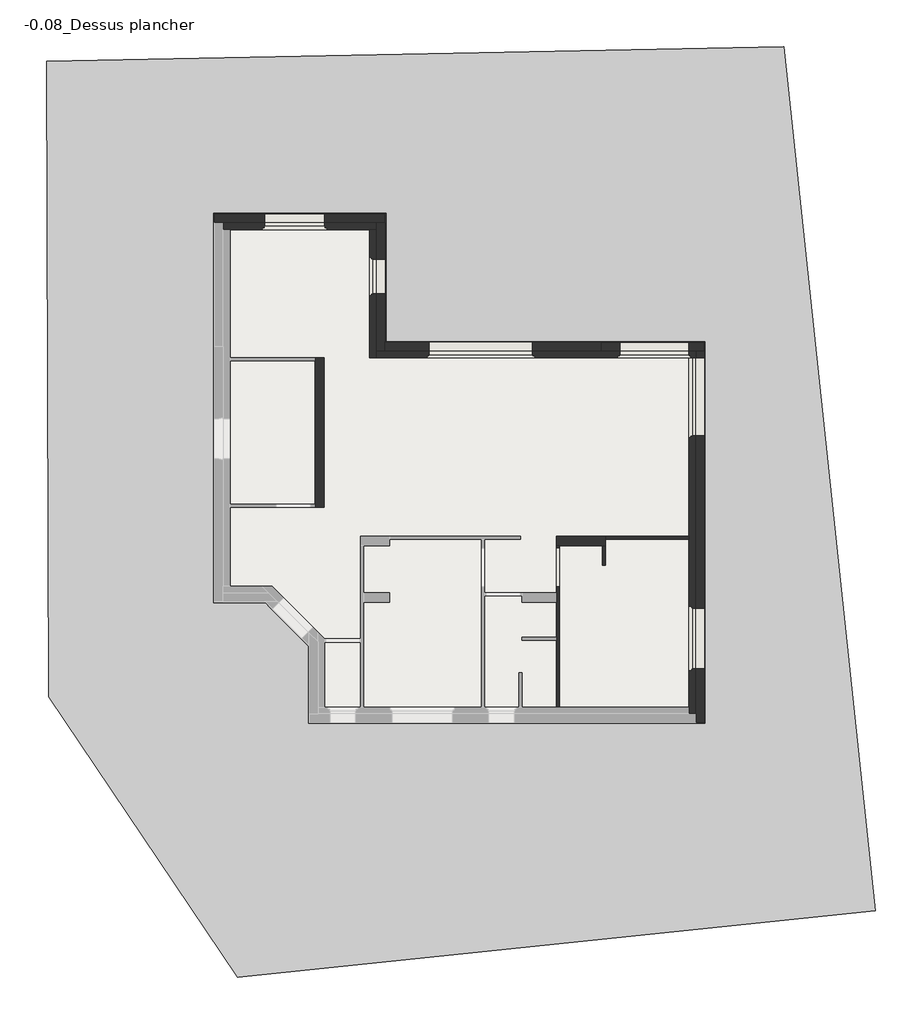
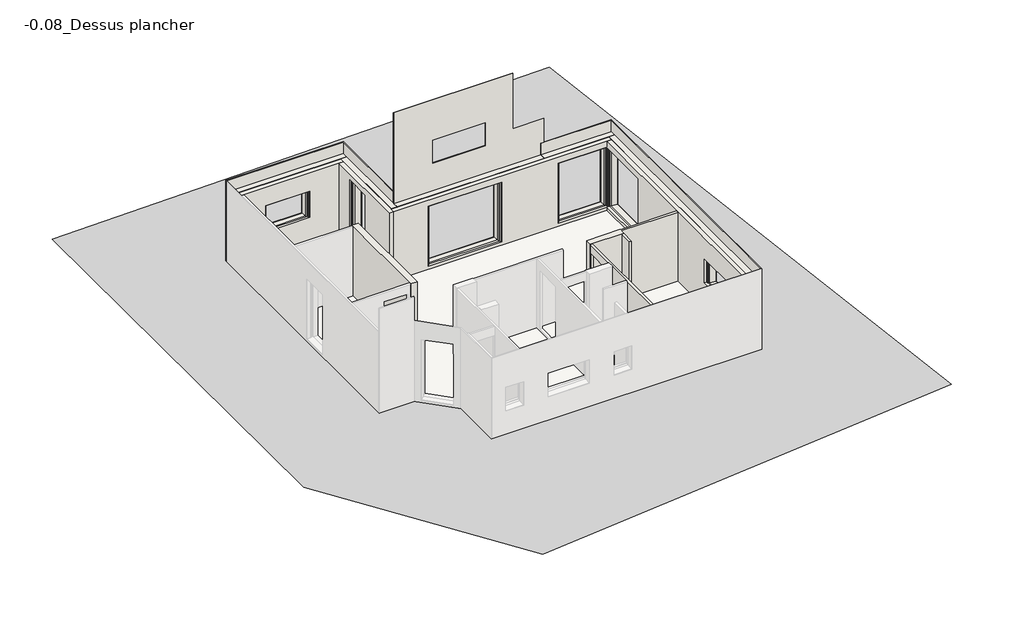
# One storey, part 2 of 2: 19 walls, 1 proxy, 1 slab.
"""IFC4 building model written with IfcOpenShell, lengths in millimetres."""

from ifc_helpers import new_model, si_unit, frame, origin, place, context, project, spatial, polyline, outline, extrude, faceted_brep, triangles, element, save

model = new_model("IFC4")

# Units and contexts
model_context = context("Model", 3, world=origin())
ifc_project = project(units=[si_unit("LENGTHUNIT", "METRE", prefix="MILLI")], contexts=[model_context])

# Site, building, storey
site = spatial("IfcSite", under=ifc_project)
building = spatial("IfcBuilding", under=site)
storey = spatial("IfcBuildingStorey", under=building, Name="-0.08_Dessus plancher", Elevation=-80.0)

# Proxy
placement = place(None, origin())
element("IfcBuildingElementProxy", 1, Name="Building Element Proxy", at=placement, inside=storey, context=model_context, shape_type="Tessellation", body=[
    triangles([(-21773.4616699, 13740.6147766, -80.0000042), (-21725.3041443, -995.5213566, -80.0000042), (-17342.9902405, -7496.7575226, -80.0000042), (-2558.6970177, -5955.7236786, -80.0000042), (-4677.6185532, 14077.7151306, -80.0000042), (-13901.7723816, 10209.9233093, -80.0000042), (-13901.7723816, 7239.9231995, -80.0000042), (-12411.095929, 7239.9231995, -80.0000042), (-6501.7723251, 7239.9231995, -80.0000042), (-6501.7723251, -1610.0768681, -80.0000042), (-15701.7729767, -1610.0768681, -80.0000042), (-15701.7729767, 189.9231638, -80.0000042), (-16701.772403, 1189.9231533, -80.0000042), (-17901.7724121, 1189.9231533, -80.0000042), (-17901.7724121, 2385.1725803, -80.0000042), (-17901.7724121, 10209.9233093, -80.0000042)], [[2, 14, 15], [14, 2, 11], [3, 11, 2], [11, 3, 10], [13, 14, 12], [1, 16, 6], [1, 2, 16], [2, 15, 16], [12, 14, 11], [3, 4, 10], [9, 10, 4], [7, 8, 6], [9, 5, 6], [5, 9, 4], [8, 9, 6], [6, 5, 1]], closed=False),
])

# Slab
element("IfcSlab", 2, ObjectType="Plancher 4+12+5", at=placement, inside=storey, context=model_context, shape_type="SweptSolid", body=[
    extrude(outline(polyline([(-6521.7726031, 7219.9231713), (-6521.7726031, -1590.0768287), (-15681.7726031, -1590.0768287), (-15681.7726031, 198.2074425), (-16693.4883319, 1209.9231713), (-17881.7726031, 1209.9231713), (-17881.7726031, 10189.9231713), (-13921.7726031, 10189.9231713), (-13921.7726031, 7219.9231713), (-6521.7726031, 7219.9231713)])), frame((0.0, 0.0, -290.0), z_axis=(0.0, 0.0, 1.0), x_axis=(1.0, 0.0, 0.0)), (0.0, 0.0, 1.0), 210.0),
])

# Walls
element("IfcWall", 3, ObjectType="Mur refend 22", at=placement, inside=storey, context=model_context, shape_type="SweptSolid", body=[
    extrude(outline(polyline([(-8811.7726031, 2509.9231713), (-9951.7726031, 2509.9231713), (-9951.7726031, 2729.9231713), (-8811.7726031, 2729.9231713), (-8811.7726031, 2509.9231713)])), frame((0.0, 0.0, -80.0), z_axis=(0.0, 0.0, 1.0), x_axis=(1.0, 0.0, 0.0)), (0.0, 0.0, 1.0), 2490.0),
])
element("IfcWall", 4, ObjectType="Mur refend 22", at=placement, inside=storey, context=model_context, shape_type="SweptSolid", body=[
    extrude(outline(polyline([(-15331.7726031, 6859.9231713), (-15331.7726031, 3399.9231713), (-15551.7726031, 3399.9231713), (-15551.7726031, 6859.9231713), (-15331.7726031, 6859.9231713)])), frame((0.0, 0.0, -80.0), z_axis=(0.0, 0.0, 1.0), x_axis=(1.0, 0.0, 0.0)), (0.0, 0.0, 1.0), 2490.0),
])
element("IfcWall", 5, ObjectType="Doublage 16", at=placement, inside=storey, context=model_context, shape_type="Brep", body=[
    faceted_brep([(-17681.7726031, 9829.9231713, -80.0), (-17521.7726031, 9829.9231713, -80.0), (-14281.7726031, 9829.9231713, -80.0), (-14121.7726031, 9829.9231713, -80.0), (-14121.7726031, 9829.9231713, 2400.0), (-14281.7726031, 9829.9231713, 2400.0), (-17521.7726031, 9829.9231713, 2400.0), (-17681.7726031, 9829.9231713, 2400.0), (-15271.7726031, 9829.9231713, 800.0), (-16771.7726031, 9829.9231713, 800.0), (-16771.7726031, 9829.9231713, 1750.0), (-15271.7726031, 9829.9231713, 1750.0), (-17681.7726031, 9989.9231713, -80.0), (-17681.7726031, 9989.9231713, 2400.0), (-14121.7726031, 9989.9231713, 2400.0), (-14121.7726031, 9989.9231713, -80.0), (-16721.7726031, 9989.9231713, 1700.0), (-16721.7726031, 9989.9231713, 776.5916612), (-15321.7726031, 9989.9231713, 776.5916612), (-15321.7726031, 9989.9231713, 1700.0), (-16721.7726031, 9909.9231713, 800.0), (-16721.7726031, 9909.9231713, 785.0), (-16721.7726031, 9929.9231713, 1700.0), (-16721.7726031, 9929.9231713, 800.0), (-15321.7726031, 9909.9231713, 785.0), (-15321.7726031, 9909.9231713, 800.0), (-15321.7726031, 9929.9231713, 800.0), (-15321.7726031, 9929.9231713, 1700.0), (-16731.7726031, 9929.9231713, 800.0), (-16731.7726031, 9879.9231713, 800.0), (-16771.7726031, 9879.9231713, 800.0), (-15271.7726031, 9879.9231713, 800.0), (-15311.7726031, 9879.9231713, 800.0), (-15311.7726031, 9929.9231713, 800.0), (-16771.7726031, 9879.9231713, 1750.0), (-16731.7726031, 9879.9231713, 1710.0), (-15311.7726031, 9879.9231713, 1710.0), (-15271.7726031, 9879.9231713, 1750.0), (-16731.7726031, 9929.9231713, 1710.0), (-15311.7726031, 9929.9231713, 1710.0)], [[[0, 1, 2, 3, 4, 5, 6, 7], [8, 9, 10, 11]], [[12, 13, 14, 15], [16, 17, 18, 19]], [[3, 2, 1, 0, 12, 15]], [[7, 6, 5, 4, 14, 13]], [[20, 21, 17, 16, 22, 23]], [[24, 25, 26, 27, 19, 18]], [[21, 24, 18, 17]], [[21, 20, 25, 24]], [[16, 19, 27, 22]], [[25, 20, 23, 28, 29, 30, 9, 8, 31, 32, 33, 26]], [[9, 30, 34, 10]], [[30, 29, 35, 36, 32, 31, 37, 34]], [[29, 28, 38, 35]], [[28, 23, 22, 27, 26, 33, 39, 38]], [[10, 34, 37, 11]], [[36, 35, 38, 39]], [[37, 31, 8, 11]], [[32, 36, 39, 33]], [[0, 7, 13, 12]], [[4, 3, 15, 14]]]),
])
element("IfcWall", 6, ObjectType="Doublage 16", at=placement, inside=storey, context=model_context, shape_type="Brep", body=[
    faceted_brep([(-14281.7726031, 9829.9231713, -80.0), (-14281.7726031, 6859.9231713, -80.0), (-14281.7726031, 6859.9231713, 2400.0), (-14281.7726031, 9829.9231713, 2400.0), (-14281.7726031, 8299.9231713, 35.0), (-14281.7726031, 9199.9231713, 35.0), (-14281.7726031, 9199.9231713, 2185.0), (-14281.7726031, 8299.9231713, 2185.0), (-14121.7726031, 9829.9231713, -80.0), (-14121.7726031, 9829.9231713, 2400.0), (-14121.7726031, 7019.9231713, 2400.0), (-14121.7726031, 6859.9231713, 2400.0), (-14121.7726031, 6859.9231713, -80.0), (-14121.7726031, 7019.9231713, -80.0), (-14121.7726031, 9149.9231713, 2135.0), (-14121.7726031, 9149.9231713, 26.5916612), (-14121.7726031, 8349.9231713, 26.5916612), (-14121.7726031, 8349.9231713, 2135.0), (-14201.7726031, 9149.9231713, 35.0), (-14181.7726031, 9149.9231713, 2135.0), (-14181.7726031, 9149.9231713, 35.0), (-14201.7726031, 8349.9231713, 35.0), (-14181.7726031, 8349.9231713, 35.0), (-14181.7726031, 8349.9231713, 2135.0), (-14181.7726031, 9159.9231713, 35.0), (-14231.7726031, 9159.9231713, 35.0), (-14231.7726031, 9199.9231713, 35.0), (-14231.7726031, 8299.9231713, 35.0), (-14231.7726031, 8339.9231713, 35.0), (-14181.7726031, 8339.9231713, 35.0), (-14231.7726031, 9199.9231713, 2185.0), (-14231.7726031, 9159.9231713, 2145.0), (-14231.7726031, 8339.9231713, 2145.0), (-14231.7726031, 8299.9231713, 2185.0), (-14181.7726031, 9159.9231713, 2145.0), (-14181.7726031, 8339.9231713, 2145.0)], [[[0, 1, 2, 3], [4, 5, 6, 7]], [[8, 9, 10, 11, 12, 13], [14, 15, 16, 17]], [[1, 0, 8, 13, 12]], [[3, 2, 11, 10, 9]], [[2, 1, 12, 11]], [[18, 15, 14, 19, 20]], [[16, 21, 22, 23, 17]], [[18, 21, 16, 15]], [[14, 17, 23, 19]], [[21, 18, 20, 24, 25, 26, 5, 4, 27, 28, 29, 22]], [[5, 26, 30, 6]], [[26, 25, 31, 32, 28, 27, 33, 30]], [[25, 24, 34, 31]], [[24, 20, 19, 23, 22, 29, 35, 34]], [[6, 30, 33, 7]], [[32, 31, 34, 35]], [[33, 27, 4, 7]], [[28, 32, 35, 29]], [[0, 3, 9, 8]]]),
])
element("IfcWall", 7, ObjectType="Doublage 16", at=placement, inside=storey, context=model_context, shape_type="Brep", body=[
    faceted_brep([(-14121.7726031, 6859.9231713, -80.0), (-6881.7726031, 6859.9231713, -80.0), (-6721.7726031, 6859.9231713, -80.0), (-6721.7726031, 6859.9231713, 26.5916612), (-6721.7726031, 6859.9231713, 2135.0), (-6721.7726031, 6859.9231713, 2400.0), (-6881.7726031, 6859.9231713, 2400.0), (-14121.7726031, 6859.9231713, 2400.0), (-10451.7726031, 6859.9231713, 35.0), (-12951.7726031, 6859.9231713, 35.0), (-12951.7726031, 6859.9231713, 2185.0), (-10451.7726031, 6859.9231713, 2185.0), (-6781.7726031, 6859.9231713, 35.0), (-6801.7726031, 6859.9231713, 35.0), (-6881.7726031, 6859.9231713, 35.0), (-8531.7726031, 6859.9231713, 35.0), (-8531.7726031, 6859.9231713, 2185.0), (-6881.7726031, 6859.9231713, 2185.0), (-6831.7726031, 6859.9231713, 2185.0), (-6831.7726031, 6859.9231713, 2145.0), (-6781.7726031, 6859.9231713, 2145.0), (-6781.7726031, 6859.9231713, 2135.0), (-6721.7726031, 7019.9231713, -80.0), (-8921.7726031, 7019.9231713, -80.0), (-13921.7726031, 7019.9231713, -80.0), (-14121.7726031, 7019.9231713, -80.0), (-14121.7726031, 7019.9231713, 2400.0), (-6721.7726031, 7019.9231713, 2400.0), (-12901.7726031, 7019.9231713, 2135.0), (-12901.7726031, 7019.9231713, 26.5916612), (-10501.7726031, 7019.9231713, 26.5916612), (-10501.7726031, 7019.9231713, 2135.0), (-8481.7726031, 7019.9231713, 2135.0), (-8481.7726031, 7019.9231713, 26.5916612), (-6881.7726031, 7019.9231713, 26.5916612), (-6881.7726031, 7019.9231713, 2135.0), (-12901.7726031, 6939.9231713, 35.0), (-12901.7726031, 6959.9231713, 2135.0), (-12901.7726031, 6959.9231713, 35.0), (-10501.7726031, 6939.9231713, 35.0), (-10501.7726031, 6959.9231713, 35.0), (-10501.7726031, 6959.9231713, 2135.0), (-12911.7726031, 6959.9231713, 35.0), (-12911.7726031, 6909.9231713, 35.0), (-12951.7726031, 6909.9231713, 35.0), (-10451.7726031, 6909.9231713, 35.0), (-10491.7726031, 6909.9231713, 35.0), (-10491.7726031, 6959.9231713, 35.0), (-12951.7726031, 6909.9231713, 2185.0), (-12911.7726031, 6909.9231713, 2145.0), (-10491.7726031, 6909.9231713, 2145.0), (-10451.7726031, 6909.9231713, 2185.0), (-12911.7726031, 6959.9231713, 2145.0), (-10491.7726031, 6959.9231713, 2145.0), (-6831.7726031, 6869.9231713, 35.0), (-6781.7726031, 6869.9231713, 35.0), (-6781.7726031, 6869.9231713, 2145.0), (-6831.7726031, 6869.9231713, 2145.0), (-8481.7726031, 6959.9231713, 2135.0), (-8481.7726031, 6959.9231713, 35.0), (-8481.7726031, 6939.9231713, 35.0), (-6881.7726031, 6939.9231713, 35.0), (-6881.7726031, 6959.9231713, 35.0), (-6881.7726031, 6959.9231713, 2135.0), (-8491.7726031, 6959.9231713, 35.0), (-8491.7726031, 6909.9231713, 35.0), (-8531.7726031, 6909.9231713, 35.0), (-6831.7726031, 6909.9231713, 35.0), (-6871.7726031, 6909.9231713, 35.0), (-6871.7726031, 6959.9231713, 35.0), (-8531.7726031, 6909.9231713, 2185.0), (-6831.7726031, 6909.9231713, 2185.0), (-6881.7726031, 6909.9231713, 2185.0), (-8491.7726031, 6909.9231713, 2145.0), (-6881.7726031, 6909.9231713, 2145.0), (-6871.7726031, 6909.9231713, 2145.0), (-8491.7726031, 6959.9231713, 2145.0), (-6871.7726031, 6959.9231713, 2145.0)], [[[0, 1, 2, 3, 4, 5, 6, 7], [8, 9, 10, 11], [12, 13, 14, 15, 16, 17, 18, 19, 20, 21]], [[22, 23, 24, 25, 26, 27], [28, 29, 30, 31], [32, 33, 34, 35]], [[2, 1, 0, 25, 24, 23, 22]], [[7, 6, 5, 27, 26]], [[0, 7, 26, 25]], [[36, 29, 28, 37, 38]], [[30, 39, 40, 41, 31]], [[36, 39, 30, 29]], [[28, 31, 41, 37]], [[39, 36, 38, 42, 43, 44, 9, 8, 45, 46, 47, 40]], [[9, 44, 48, 10]], [[44, 43, 49, 50, 46, 45, 51, 48]], [[43, 42, 52, 49]], [[42, 38, 37, 41, 40, 47, 53, 52]], [[10, 48, 51, 11]], [[50, 49, 52, 53]], [[51, 45, 8, 11]], [[46, 50, 53, 47]], [[54, 55, 56, 57]], [[55, 12, 21, 20, 56]], [[57, 56, 20, 19]], [[58, 59, 60, 33, 32]], [[61, 62, 63, 35, 34]], [[60, 59, 64, 65, 66, 15, 14, 13, 12, 55, 54, 67, 68, 69, 62, 61]], [[63, 58, 32, 35]], [[60, 61, 34, 33]], [[15, 66, 70, 16]], [[68, 67, 71, 72, 70, 66, 65, 73, 74, 75]], [[65, 64, 76, 73]], [[59, 58, 63, 62, 69, 77, 76, 64]], [[16, 70, 72, 71, 18, 17]], [[73, 76, 77, 75, 74]], [[71, 67, 54, 57, 19, 18]], [[69, 68, 75, 77]], [[2, 22, 27, 5, 4, 3]]]),
])
element("IfcWall", 8, ObjectType="Doublage 16", at=placement, inside=storey, context=model_context, shape_type="Brep", body=[
    faceted_brep([(-6881.7726031, 6859.9231713, -80.0), (-6881.7726031, 2729.9231713, -80.0), (-6881.7726031, 2659.9231713, -80.0), (-6881.7726031, -1230.0768287, -80.0), (-6881.7726031, -1390.0768287, -80.0), (-6881.7726031, -1390.0768287, 2400.0), (-6881.7726031, -1230.0768287, 2400.0), (-6881.7726031, 2659.9231713, 2400.0), (-6881.7726031, 2729.9231713, 2400.0), (-6881.7726031, 6859.9231713, 2400.0), (-6881.7726031, 6859.9231713, 2185.0), (-6881.7726031, 5009.9231713, 2185.0), (-6881.7726031, 5009.9231713, 35.0), (-6881.7726031, 5059.9231713, 35.0), (-6881.7726031, 6859.9231713, 35.0), (-6881.7726031, -390.0768287, 800.0), (-6881.7726031, 1109.9231713, 800.0), (-6881.7726031, 1109.9231713, 1650.0), (-6881.7726031, -390.0768287, 1650.0), (-6721.7726031, -1390.0768287, -80.0), (-6721.7726031, 6859.9231713, -80.0), (-6721.7726031, 6859.9231713, 26.5916612), (-6721.7726031, 5059.9231713, 26.5916612), (-6721.7726031, 5059.9231713, 2135.0), (-6721.7726031, 6859.9231713, 2135.0), (-6721.7726031, 6859.9231713, 2400.0), (-6721.7726031, -1390.0768287, 2400.0), (-6721.7726031, 1059.9231713, 1600.0), (-6721.7726031, 1059.9231713, 776.5916612), (-6721.7726031, -340.0768287, 776.5916612), (-6721.7726031, -340.0768287, 1600.0), (-6801.7726031, 5059.9231713, 35.0), (-6781.7726031, 5059.9231713, 35.0), (-6781.7726031, 5059.9231713, 2135.0), (-6801.7726031, 6859.9231713, 35.0), (-6831.7726031, 5009.9231713, 35.0), (-6831.7726031, 5049.9231713, 35.0), (-6781.7726031, 5049.9231713, 35.0), (-6781.7726031, 6859.9231713, 2135.0), (-6831.7726031, 5009.9231713, 2185.0), (-6831.7726031, 6859.9231713, 2185.0), (-6831.7726031, 6859.9231713, 2145.0), (-6831.7726031, 5049.9231713, 2145.0), (-6781.7726031, 5049.9231713, 2145.0), (-6781.7726031, 6859.9231713, 2145.0), (-6801.7726031, 1059.9231713, 800.0), (-6801.7726031, 1059.9231713, 785.0), (-6781.7726031, 1059.9231713, 1600.0), (-6781.7726031, 1059.9231713, 800.0), (-6801.7726031, -340.0768287, 785.0), (-6801.7726031, -340.0768287, 800.0), (-6781.7726031, -340.0768287, 800.0), (-6781.7726031, -340.0768287, 1600.0), (-6781.7726031, 1069.9231713, 800.0), (-6811.7726031, 1069.9231713, 800.0), (-6811.7726031, 1109.9231713, 800.0), (-6811.7726031, -390.0768287, 800.0), (-6811.7726031, -350.0768287, 800.0), (-6781.7726031, -350.0768287, 800.0), (-6811.7726031, 1109.9231713, 1650.0), (-6811.7726031, 1069.9231713, 1610.0), (-6811.7726031, -350.0768287, 1610.0), (-6811.7726031, -390.0768287, 1650.0), (-6781.7726031, 1069.9231713, 1610.0), (-6781.7726031, -350.0768287, 1610.0)], [[[0, 1, 2, 3, 4, 5, 6, 7, 8, 9, 10, 11, 12, 13, 14], [15, 16, 17, 18]], [[19, 20, 21, 22, 23, 24, 25, 26], [27, 28, 29, 30]], [[4, 3, 2, 1, 0, 20, 19]], [[9, 8, 7, 6, 5, 26, 25]], [[5, 4, 19, 26]], [[31, 32, 33, 23, 22]], [[32, 31, 34, 14, 13, 12, 35, 36, 37]], [[33, 38, 24, 23]], [[34, 31, 22, 21]], [[36, 35, 39, 40, 41, 42]], [[33, 32, 37, 43, 44, 38]], [[39, 11, 10, 40]], [[43, 42, 41, 44]], [[35, 12, 11, 39]], [[37, 36, 42, 43]], [[45, 46, 28, 27, 47, 48]], [[49, 50, 51, 52, 30, 29]], [[46, 49, 29, 28]], [[46, 45, 50, 49]], [[27, 30, 52, 47]], [[50, 45, 48, 53, 54, 55, 16, 15, 56, 57, 58, 51]], [[16, 55, 59, 17]], [[55, 54, 60, 61, 57, 56, 62, 59]], [[54, 53, 63, 60]], [[53, 48, 47, 52, 51, 58, 64, 63]], [[17, 59, 62, 18]], [[61, 60, 63, 64]], [[62, 56, 15, 18]], [[57, 61, 64, 58]], [[9, 25, 24, 38, 44, 41, 40, 10]], [[20, 0, 14, 34, 21]]]),
])
element("IfcWall", 9, ObjectType="Cloison 7cm", at=placement, inside=storey, context=model_context, shape_type="SweptSolid", body=[
    extrude(outline(polyline([(-8811.7726031, 2729.9231713), (-6881.7726031, 2729.9231713), (-6881.7726031, 2659.9231713), (-8811.7726031, 2659.9231713), (-8811.7726031, 2729.9231713)])), frame((0.0, 0.0, -80.0), z_axis=(0.0, 0.0, 1.0), x_axis=(1.0, 0.0, 0.0)), (0.0, 0.0, 1.0), 2480.0),
])
element("IfcWall", 10, ObjectType="Cloison 7cm", at=placement, inside=storey, context=model_context, shape_type="SweptSolid", body=[
    extrude(outline(polyline([(-8881.7726031, 2059.9231713), (-8881.7726031, 2509.9231713), (-8811.7726031, 2509.9231713), (-8811.7726031, 2059.9231713), (-8881.7726031, 2059.9231713)])), frame((0.0, 0.0, -80.0), z_axis=(0.0, 0.0, 1.0), x_axis=(1.0, 0.0, 0.0)), (0.0, 0.0, 1.0), 2480.0),
])
element("IfcWall", 11, ObjectType="Cloison 7cm", at=placement, inside=storey, context=model_context, shape_type="Brep", body=[
    faceted_brep([(-9951.7726031, 2509.9231713, -80.0), (-9951.7726031, 389.9231713, -80.0), (-9951.7726031, 319.9231713, -80.0), (-9951.7726031, -1230.0768287, -80.0), (-9951.7726031, -1230.0768287, 2400.0), (-9951.7726031, 319.9231713, 2400.0), (-9951.7726031, 389.9231713, 2400.0), (-9951.7726031, 2509.9231713, 2400.0), (-9951.7726031, 2459.9231713, 0.0), (-9951.7726031, 2459.9231713, 2075.0), (-9951.7726031, 1559.9231713, 2075.0), (-9951.7726031, 1559.9231713, 0.0), (-9881.7726031, 2509.9231713, -80.0), (-9881.7726031, 2509.9231713, 2400.0), (-9881.7726031, -1230.0768287, 2400.0), (-9881.7726031, -1230.0768287, -80.0), (-9881.7726031, 2459.9231713, 0.0), (-9881.7726031, 1559.9231713, 0.0), (-9881.7726031, 1559.9231713, 2075.0), (-9881.7726031, 2459.9231713, 2075.0)], [[[0, 1, 2, 3, 4, 5, 6, 7], [8, 9, 10, 11]], [[12, 13, 14, 15], [16, 17, 18, 19]], [[3, 2, 1, 0, 12, 15]], [[7, 6, 5, 4, 14, 13]], [[0, 7, 13, 12]], [[4, 3, 15, 14]], [[9, 8, 16, 19]], [[10, 9, 19, 18]], [[11, 10, 18, 17]], [[8, 11, 17, 16]]]),
])
element("IfcWall", 12, ObjectType="Enduit 2", at=placement, inside=storey, context=model_context, shape_type="Brep", body=[
    faceted_brep([(-6501.7726031, -1590.0768287, -80.0), (-6501.7726031, 7239.9231713, -80.0), (-6501.7726031, 7239.9231713, 2820.0), (-6501.7726031, -1590.0768287, 2820.0), (-6501.7726031, 6859.9231713, 2135.0), (-6501.7726031, 6859.9231713, 3.4687294), (-6501.7726031, 5059.9231713, 3.4687294), (-6501.7726031, 5059.9231713, 2135.0), (-6501.7726031, 1059.9231713, 1600.0), (-6501.7726031, 1059.9231713, 753.4687294), (-6501.7726031, -340.0768287, 753.4687294), (-6501.7726031, -340.0768287, 1600.0), (-6521.7726031, 7239.9231713, -80.0), (-6521.7726031, 7219.9231713, -80.0), (-6521.7726031, 7019.9231713, -80.0), (-6521.7726031, -1590.0768287, -80.0), (-6521.7726031, -1590.0768287, 2410.0), (-6521.7726031, -1590.0768287, 2820.0), (-6521.7726031, 7219.9231713, 2820.0), (-6521.7726031, 7239.9231713, 2820.0), (-6521.7726031, 6859.9231713, 5.5708141), (-6521.7726031, 6859.9231713, 2135.0), (-6521.7726031, 5059.9231713, 2135.0), (-6521.7726031, 5059.9231713, 5.5708141), (-6521.7726031, 1059.9231713, 755.5708141), (-6521.7726031, 1059.9231713, 1600.0), (-6521.7726031, -340.0768287, 1600.0), (-6521.7726031, -340.0768287, 755.5708141)], [[[0, 1, 2, 3], [4, 5, 6, 7], [8, 9, 10, 11]], [[12, 13, 14, 15, 16, 17, 18, 19], [20, 21, 22, 23], [24, 25, 26, 27]], [[1, 0, 15, 14, 13, 12]], [[3, 2, 19, 18, 17]], [[0, 3, 17, 16, 15]], [[2, 1, 12, 19]], [[20, 5, 4, 21]], [[6, 23, 22, 7]], [[21, 4, 7, 22]], [[5, 20, 23, 6]], [[24, 9, 8, 25]], [[10, 27, 26, 11]], [[25, 8, 11, 26]], [[9, 24, 27, 10]]]),
])
element("IfcWall", 13, ObjectType="Enduit 2", at=placement, inside=storey, context=model_context, shape_type="Brep", body=[
    faceted_brep([(-6521.7726031, 7239.9231713, -80.0), (-8921.7726031, 7239.9231713, -80.0), (-8921.7726031, 7239.9231713, 2820.0), (-8821.7726031, 7239.9231713, 2820.0), (-6521.7726031, 7239.9231713, 2820.0), (-8481.7726031, 7239.9231713, 2135.0), (-8481.7726031, 7239.9231713, 3.4687294), (-6881.7726031, 7239.9231713, 3.4687294), (-6881.7726031, 7239.9231713, 2135.0), (-8921.7726031, 7219.9231713, -80.0), (-6521.7726031, 7219.9231713, -80.0), (-6521.7726031, 7219.9231713, 2410.0), (-6521.7726031, 7219.9231713, 2820.0), (-8821.7726031, 7219.9231713, 2820.0), (-8921.7726031, 7219.9231713, 2820.0), (-8921.7726031, 7219.9231713, 2410.0), (-8481.7726031, 7219.9231713, 5.5708141), (-8481.7726031, 7219.9231713, 2135.0), (-6881.7726031, 7219.9231713, 2135.0), (-6881.7726031, 7219.9231713, 5.5708141)], [[[0, 1, 2, 3, 4], [5, 6, 7, 8]], [[9, 10, 11, 12, 13, 14, 15], [16, 17, 18, 19]], [[1, 0, 10, 9]], [[4, 3, 2, 14, 13, 12]], [[0, 4, 12, 11, 10]], [[1, 9, 15, 14, 2]], [[16, 6, 5, 17]], [[7, 19, 18, 8]], [[17, 5, 8, 18]], [[6, 16, 19, 7]]]),
])
element("IfcWall", 14, ObjectType="Enduit 2", at=placement, inside=storey, context=model_context, shape_type="Brep", body=[
    faceted_brep([(-13901.7726031, 7239.9231713, -80.0), (-13901.7726031, 10209.9231713, -80.0), (-13901.7726031, 10209.9231713, 2820.0), (-13901.7726031, 7239.9231713, 2820.0), (-13901.7726031, 9149.9231713, 2135.0), (-13901.7726031, 9149.9231713, 3.4687294), (-13901.7726031, 8349.9231713, 3.4687294), (-13901.7726031, 8349.9231713, 2135.0), (-13921.7726031, 10209.9231713, -80.0), (-13921.7726031, 10189.9231713, -80.0), (-13921.7726031, 9989.9231713, -80.0), (-13921.7726031, 7239.9231713, -80.0), (-13921.7726031, 7239.9231713, 2820.0), (-13921.7726031, 10189.9231713, 2820.0), (-13921.7726031, 10209.9231713, 2820.0), (-13921.7726031, 9149.9231713, 5.5708141), (-13921.7726031, 9149.9231713, 2135.0), (-13921.7726031, 8349.9231713, 2135.0), (-13921.7726031, 8349.9231713, 5.5708141)], [[[0, 1, 2, 3], [4, 5, 6, 7]], [[8, 9, 10, 11, 12, 13, 14], [15, 16, 17, 18]], [[1, 0, 11, 10, 9, 8]], [[3, 2, 14, 13, 12]], [[2, 1, 8, 14]], [[0, 3, 12, 11]], [[15, 5, 4, 16]], [[6, 18, 17, 7]], [[16, 4, 7, 17]], [[5, 15, 18, 6]]]),
])
element("IfcWall", 15, ObjectType="Enduit 2", at=placement, inside=storey, context=model_context, shape_type="Brep", body=[
    faceted_brep([(-13921.7726031, 10209.9231713, -80.0), (-17901.7726031, 10209.9231713, -80.0), (-17901.7726031, 10209.9231713, 2820.0), (-13921.7726031, 10209.9231713, 2820.0), (-16721.7726031, 10209.9231713, 1700.0), (-16721.7726031, 10209.9231713, 753.4687294), (-15321.7726031, 10209.9231713, 753.4687294), (-15321.7726031, 10209.9231713, 1700.0), (-17901.7726031, 10189.9231713, -80.0), (-17881.7726031, 10189.9231713, -80.0), (-13921.7726031, 10189.9231713, -80.0), (-13921.7726031, 10189.9231713, 2410.0), (-13921.7726031, 10189.9231713, 2820.0), (-17881.7726031, 10189.9231713, 2820.0), (-17901.7726031, 10189.9231713, 2820.0), (-16721.7726031, 10189.9231713, 755.5708141), (-16721.7726031, 10189.9231713, 1700.0), (-15321.7726031, 10189.9231713, 1700.0), (-15321.7726031, 10189.9231713, 755.5708141)], [[[0, 1, 2, 3], [4, 5, 6, 7]], [[8, 9, 10, 11, 12, 13, 14], [15, 16, 17, 18]], [[1, 0, 10, 9, 8]], [[3, 2, 14, 13, 12]], [[0, 3, 12, 11, 10]], [[2, 1, 8, 14]], [[15, 5, 4, 16]], [[6, 18, 17, 7]], [[16, 4, 7, 17]], [[5, 15, 18, 6]]]),
])
element("IfcWall", 16, ObjectType="Enduit 2", at=placement, inside=storey, context=model_context, shape_type="Brep", body=[
    faceted_brep([(-8921.7726031, 7239.9231713, -80.0), (-13901.7726031, 7239.9231713, -80.0), (-13921.7726031, 7239.9231713, -80.0), (-13921.7726031, 7239.9231713, 2820.0), (-13921.7726031, 7239.9231713, 5670.0), (-9871.7726031, 7239.9231713, 5670.0), (-9871.7726031, 7239.9231713, 3670.5379336), (-8821.7726031, 7239.9231713, 3670.5379336), (-8821.7726031, 7239.9231713, 2820.0), (-8921.7726031, 7239.9231713, 2820.0), (-12901.7726031, 7239.9231713, 2135.0), (-12901.7726031, 7239.9231713, 3.4687294), (-10501.7726031, 7239.9231713, 3.4687294), (-10501.7726031, 7239.9231713, 2135.0), (-12601.7726031, 7239.9231713, 4230.0), (-12601.7726031, 7239.9231713, 3400.2854071), (-10801.7726031, 7239.9231713, 3400.2854071), (-10801.7726031, 7239.9231713, 4230.0), (-13921.7726031, 7219.9231713, -80.0), (-8921.7726031, 7219.9231713, -80.0), (-8921.7726031, 7219.9231713, 2410.0), (-8921.7726031, 7219.9231713, 2820.0), (-8821.7726031, 7219.9231713, 2820.0), (-8821.7726031, 7219.9231713, 3687.3199262), (-9871.7726031, 7219.9231713, 3687.3199262), (-9871.7726031, 7219.9231713, 5569.7323124), (-9871.7726031, 7219.9231713, 5670.0), (-13921.7726031, 7219.9231713, 5670.0), (-13921.7726031, 7219.9231713, 5569.7323124), (-13921.7726031, 7219.9231713, 2820.0), (-13921.7726031, 7219.9231713, 2410.0), (-12901.7726031, 7219.9231713, 5.5708141), (-12901.7726031, 7219.9231713, 2135.0), (-10501.7726031, 7219.9231713, 2135.0), (-10501.7726031, 7219.9231713, 5.5708141), (-12601.7726031, 7219.9231713, 3402.3874918), (-12601.7726031, 7219.9231713, 4230.0), (-10801.7726031, 7219.9231713, 4230.0), (-10801.7726031, 7219.9231713, 3402.3874918), (-13921.7726031, 7220.2592048, 5670.0)], [[[0, 1, 2, 3, 4, 5, 6, 7, 8, 9], [10, 11, 12, 13], [14, 15, 16, 17]], [[18, 19, 20, 21, 22, 23, 24, 25, 26, 27, 28, 29, 30], [31, 32, 33, 34], [35, 36, 37, 38]], [[2, 1, 0, 19, 18]], [[4, 3, 2, 18, 30, 29, 28, 27, 39]], [[4, 39, 27, 26, 5]], [[5, 26, 25, 24, 6]], [[7, 6, 24, 23]], [[19, 0, 9, 21, 20]], [[22, 21, 9, 8]], [[8, 7, 23, 22]], [[31, 11, 10, 32]], [[12, 34, 33, 13]], [[32, 10, 13, 33]], [[11, 31, 34, 12]], [[35, 15, 14, 36]], [[16, 38, 37, 17]], [[36, 14, 17, 37]], [[15, 35, 38, 16]]]),
])
element("IfcWall", 17, ObjectType="Mur 20", at=placement, inside=storey, context=model_context, shape_type="Brep", body=[
    faceted_brep([(-17881.7726031, 9989.9231713, -80.0), (-17681.7726031, 9989.9231713, -80.0), (-14121.7726031, 9989.9231713, -80.0), (-13921.7726031, 9989.9231713, -80.0), (-13921.7726031, 9989.9231713, 2410.0), (-14121.7726031, 9989.9231713, 2410.0), (-17681.7726031, 9989.9231713, 2410.0), (-17881.7726031, 9989.9231713, 2410.0), (-16721.7726031, 9989.9231713, 776.5916612), (-16721.7726031, 9989.9231713, 1700.0), (-15321.7726031, 9989.9231713, 1700.0), (-15321.7726031, 9989.9231713, 776.5916612), (-13921.7726031, 10189.9231713, -80.0), (-17881.7726031, 10189.9231713, -80.0), (-17881.7726031, 10189.9231713, 2410.0), (-13921.7726031, 10189.9231713, 2410.0), (-16721.7726031, 10189.9231713, 1700.0), (-16721.7726031, 10189.9231713, 755.5708141), (-15321.7726031, 10189.9231713, 755.5708141), (-15321.7726031, 10189.9231713, 1700.0)], [[[0, 1, 2, 3, 4, 5, 6, 7], [8, 9, 10, 11]], [[12, 13, 14, 15], [16, 17, 18, 19]], [[3, 2, 1, 0, 13, 12]], [[4, 3, 12, 15]], [[0, 7, 14, 13]], [[8, 17, 16, 9]], [[18, 11, 10, 19]], [[9, 16, 19, 10]], [[17, 8, 11, 18]], [[7, 6, 5, 4, 15, 14]]]),
])
element("IfcWall", 18, ObjectType="Mur 20", at=placement, inside=storey, context=model_context, shape_type="Brep", body=[
    faceted_brep([(-14121.7726031, 9989.9231713, -80.0), (-14121.7726031, 9829.9231713, -80.0), (-14121.7726031, 7019.9231713, -80.0), (-14121.7726031, 7019.9231713, 2410.0), (-14121.7726031, 9989.9231713, 2410.0), (-14121.7726031, 9149.9231713, 26.5916612), (-14121.7726031, 9149.9231713, 2135.0), (-14121.7726031, 8349.9231713, 2135.0), (-14121.7726031, 8349.9231713, 26.5916612), (-13921.7726031, 7019.9231713, -80.0), (-13921.7726031, 7219.9231713, -80.0), (-13921.7726031, 7239.9231713, -80.0), (-13921.7726031, 9989.9231713, -80.0), (-13921.7726031, 9989.9231713, 2410.0), (-13921.7726031, 7219.9231713, 2410.0), (-13921.7726031, 7019.9231713, 2410.0), (-13921.7726031, 9149.9231713, 2135.0), (-13921.7726031, 9149.9231713, 5.5708141), (-13921.7726031, 8349.9231713, 5.5708141), (-13921.7726031, 8349.9231713, 2135.0)], [[[0, 1, 2, 3, 4], [5, 6, 7, 8]], [[9, 10, 11, 12, 13, 14, 15], [16, 17, 18, 19]], [[2, 1, 0, 12, 11, 10, 9]], [[0, 4, 13, 12]], [[3, 2, 9, 15]], [[5, 17, 16, 6]], [[18, 8, 7, 19]], [[6, 16, 19, 7]], [[17, 5, 8, 18]], [[13, 4, 3, 15, 14]]]),
])
element("IfcWall", 19, ObjectType="Mur 20", at=placement, inside=storey, context=model_context, shape_type="Brep", body=[
    faceted_brep([(-13921.7726031, 7019.9231713, -80.0), (-8921.7726031, 7019.9231713, -80.0), (-8921.7726031, 7019.9231713, 2410.0), (-13921.7726031, 7019.9231713, 2410.0), (-12901.7726031, 7019.9231713, 26.5916612), (-12901.7726031, 7019.9231713, 2135.0), (-10501.7726031, 7019.9231713, 2135.0), (-10501.7726031, 7019.9231713, 26.5916612), (-8921.7726031, 7219.9231713, -80.0), (-13921.7726031, 7219.9231713, -80.0), (-13921.7726031, 7219.9231713, 2410.0), (-8921.7726031, 7219.9231713, 2410.0), (-12901.7726031, 7219.9231713, 2135.0), (-12901.7726031, 7219.9231713, 5.5708141), (-10501.7726031, 7219.9231713, 5.5708141), (-10501.7726031, 7219.9231713, 2135.0)], [[[0, 1, 2, 3], [4, 5, 6, 7]], [[8, 9, 10, 11], [12, 13, 14, 15]], [[1, 0, 9, 8]], [[2, 1, 8, 11]], [[0, 3, 10, 9]], [[4, 13, 12, 5]], [[14, 7, 6, 15]], [[5, 12, 15, 6]], [[13, 4, 7, 14]], [[3, 2, 11, 10]]]),
])
element("IfcWall", 20, ObjectType="Mur 20", at=placement, inside=storey, context=model_context, shape_type="Brep", body=[
    faceted_brep([(-6721.7726031, 7019.9231713, -80.0), (-6721.7726031, 6859.9231713, -80.0), (-6721.7726031, -1390.0768287, -80.0), (-6721.7726031, -1590.0768287, -80.0), (-6721.7726031, -1590.0768287, 2410.0), (-6721.7726031, -1390.0768287, 2410.0), (-6721.7726031, 7019.9231713, 2410.0), (-6721.7726031, 6859.9231713, 26.5916612), (-6721.7726031, 6859.9231713, 2135.0), (-6721.7726031, 5059.9231713, 2135.0), (-6721.7726031, 5059.9231713, 26.5916612), (-6721.7726031, 1059.9231713, 776.5916612), (-6721.7726031, 1059.9231713, 1600.0), (-6721.7726031, -340.0768287, 1600.0), (-6721.7726031, -340.0768287, 776.5916612), (-6521.7726031, -1590.0768287, -80.0), (-6521.7726031, 7019.9231713, -80.0), (-6521.7726031, 7019.9231713, 2410.0), (-6521.7726031, -1590.0768287, 2410.0), (-6521.7726031, 6859.9231713, 2135.0), (-6521.7726031, 6859.9231713, 5.5708141), (-6521.7726031, 5059.9231713, 5.5708141), (-6521.7726031, 5059.9231713, 2135.0), (-6521.7726031, 1059.9231713, 1600.0), (-6521.7726031, 1059.9231713, 755.5708141), (-6521.7726031, -340.0768287, 755.5708141), (-6521.7726031, -340.0768287, 1600.0)], [[[0, 1, 2, 3, 4, 5, 6], [7, 8, 9, 10], [11, 12, 13, 14]], [[15, 16, 17, 18], [19, 20, 21, 22], [23, 24, 25, 26]], [[3, 2, 1, 0, 16, 15]], [[0, 6, 17, 16]], [[4, 3, 15, 18]], [[7, 20, 19, 8]], [[21, 10, 9, 22]], [[8, 19, 22, 9]], [[20, 7, 10, 21]], [[11, 24, 23, 12]], [[25, 14, 13, 26]], [[12, 23, 26, 13]], [[24, 11, 14, 25]], [[6, 5, 4, 18, 17]]]),
])
element("IfcWall", 21, ObjectType="Mur 20", at=placement, inside=storey, context=model_context, shape_type="Brep", body=[
    faceted_brep([(-8921.7726031, 7019.9231713, -80.0), (-6721.7726031, 7019.9231713, -80.0), (-6521.7726031, 7019.9231713, -80.0), (-6521.7726031, 7019.9231713, 2410.0), (-6721.7726031, 7019.9231713, 2410.0), (-8921.7726031, 7019.9231713, 2410.0), (-8481.7726031, 7019.9231713, 26.5916612), (-8481.7726031, 7019.9231713, 2135.0), (-6881.7726031, 7019.9231713, 2135.0), (-6881.7726031, 7019.9231713, 26.5916612), (-6521.7726031, 7219.9231713, -80.0), (-8921.7726031, 7219.9231713, -80.0), (-8921.7726031, 7219.9231713, 2410.0), (-6521.7726031, 7219.9231713, 2410.0), (-8481.7726031, 7219.9231713, 2135.0), (-8481.7726031, 7219.9231713, 5.5708141), (-6881.7726031, 7219.9231713, 5.5708141), (-6881.7726031, 7219.9231713, 2135.0)], [[[0, 1, 2, 3, 4, 5], [6, 7, 8, 9]], [[10, 11, 12, 13], [14, 15, 16, 17]], [[2, 1, 0, 11, 10]], [[0, 5, 12, 11]], [[3, 2, 10, 13]], [[6, 15, 14, 7]], [[16, 9, 8, 17]], [[7, 14, 17, 8]], [[15, 6, 9, 16]], [[5, 4, 3, 13, 12]]]),
])

save(model, "model.ifc")
